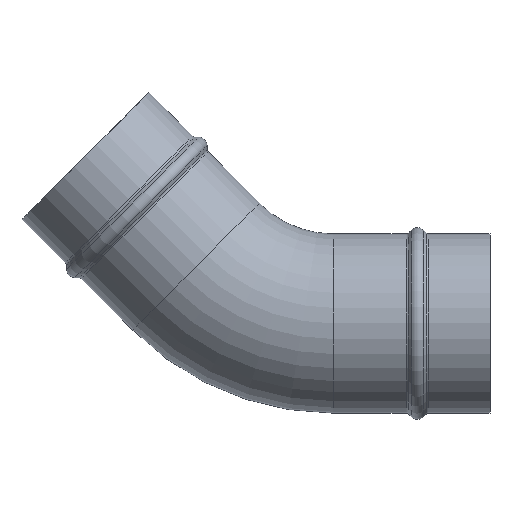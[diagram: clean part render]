
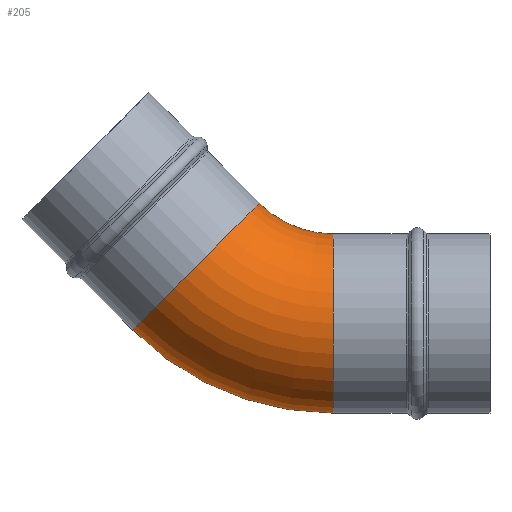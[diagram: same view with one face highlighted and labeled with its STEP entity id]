
A CAD part, top view. The second image highlights one B-rep face of the part: STEP entity #205.
In plain terms, the highlighted toroidal (fillet/blend) face has major radius 92 mm and minor radius 42.5 mm.
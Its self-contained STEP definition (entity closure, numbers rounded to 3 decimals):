
#205=ADVANCED_FACE('',(#295),#267,.T.);
#267=TOROIDAL_SURFACE('',#994,92.,42.5);
#295=FACE_OUTER_BOUND('',#355,.T.);
#355=EDGE_LOOP('',(#419,#420,#421,#422,#423,#424));
#419=ORIENTED_EDGE('',*,*,#755,.T.);
#420=ORIENTED_EDGE('',*,*,#756,.T.);
#421=ORIENTED_EDGE('',*,*,#757,.T.);
#422=ORIENTED_EDGE('',*,*,#758,.F.);
#423=ORIENTED_EDGE('',*,*,#759,.F.);
#424=ORIENTED_EDGE('',*,*,#760,.F.);
#683=VERTEX_POINT('',#1510);
#684=VERTEX_POINT('',#1511);
#685=VERTEX_POINT('',#1513);
#686=VERTEX_POINT('',#1515);
#687=VERTEX_POINT('',#1517);
#688=VERTEX_POINT('',#1519);
#755=EDGE_CURVE('',#683,#684,#887,.T.);
#756=EDGE_CURVE('',#684,#685,#888,.T.);
#757=EDGE_CURVE('',#685,#686,#889,.T.);
#758=EDGE_CURVE('',#687,#686,#890,.T.);
#759=EDGE_CURVE('',#688,#687,#891,.T.);
#760=EDGE_CURVE('',#683,#688,#892,.T.);
#887=CIRCLE('',#988,42.5);
#888=CIRCLE('',#989,42.5);
#889=CIRCLE('',#990,134.5);
#890=CIRCLE('',#991,42.5);
#891=CIRCLE('',#992,42.5);
#892=CIRCLE('',#993,49.5);
#988=AXIS2_PLACEMENT_3D('',#1509,#1152,#1153);
#989=AXIS2_PLACEMENT_3D('',#1512,#1154,#1155);
#990=AXIS2_PLACEMENT_3D('',#1514,#1156,#1157);
#991=AXIS2_PLACEMENT_3D('',#1516,#1158,#1159);
#992=AXIS2_PLACEMENT_3D('',#1518,#1160,#1161);
#993=AXIS2_PLACEMENT_3D('',#1520,#1162,#1163);
#994=AXIS2_PLACEMENT_3D('',#1521,#1164,#1165);
#1152=DIRECTION('',(0.707,-0.707,0.));
#1153=DIRECTION('',(0.707,0.707,0.));
#1154=DIRECTION('',(0.707,-0.707,0.));
#1155=DIRECTION('',(0.,0.,1.));
#1156=DIRECTION('',(0.,0.,1.));
#1157=DIRECTION('',(-0.707,-0.707,0.));
#1158=DIRECTION('',(1.,0.,0.));
#1159=DIRECTION('',(0.,0.,1.));
#1160=DIRECTION('',(1.,0.,0.));
#1161=DIRECTION('',(0.,1.,0.));
#1162=DIRECTION('',(0.,0.,1.));
#1163=DIRECTION('',(-0.707,-0.707,0.));
#1164=DIRECTION('',(0.,0.,1.));
#1165=DIRECTION('',(-0.707,-0.707,0.));
#1509=CARTESIAN_POINT('',(-65.054,-65.054,0.));
#1510=CARTESIAN_POINT('',(-35.002,-35.002,0.));
#1511=CARTESIAN_POINT('',(-65.054,-65.054,42.5));
#1512=CARTESIAN_POINT('',(-65.054,-65.054,0.));
#1513=CARTESIAN_POINT('',(-95.106,-95.106,0.));
#1514=CARTESIAN_POINT('',(0.,0.,0.));
#1515=CARTESIAN_POINT('',(0.,-134.5,0.));
#1516=CARTESIAN_POINT('',(0.,-92.,0.));
#1517=CARTESIAN_POINT('',(0.,-92.,42.5));
#1518=CARTESIAN_POINT('',(0.,-92.,0.));
#1519=CARTESIAN_POINT('',(0.,-49.5,0.));
#1520=CARTESIAN_POINT('',(0.,0.,0.));
#1521=CARTESIAN_POINT('',(0.,0.,0.));
